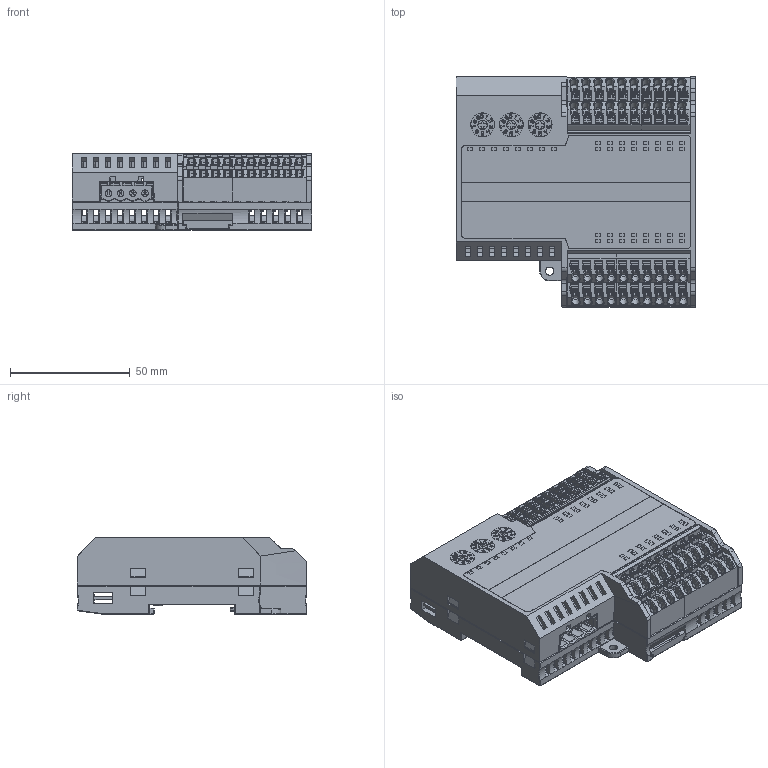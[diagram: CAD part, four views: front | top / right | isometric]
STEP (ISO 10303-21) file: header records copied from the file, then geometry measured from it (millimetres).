
FILE_DESCRIPTION((''),'2;1');
FILE_NAME('SH768_ASM_ASM','2023-09-22T09:42:26',('董'),(''),'CREO PARAMETRIC BY PTC INC, 2020033','CREO PARAMETRIC BY PTC INC, 2020033','');
FILE_SCHEMA(('CONFIG_CONTROL_DESIGN'));
Products named in the file (15): SH768-2_588; SH755A-XLB1_88; _X2_5B9E4F53_X0_1_13; _X2_5B9E4F53_X0_2_13; SH768-XLB1_ASM_24_ASM; SH755A-XLB2_62; _X2_65CB8F6C62E878015F005173_X0; SH768-XLB2_ASM_20_ASM; SH768-3_56; SH768-4_147; SH768_ASM_85_ASM; 2EDGRC-5_08-04P-14-100AH; COVER_CC_3; PVC; SH768_ASM_ASM
Assembly tree (23 placements, depth 4):
  SH768_ASM_ASM
    SH768_ASM_85_ASM
      SH768-2_588
      SH768-XLB1_ASM_24_ASM
        SH755A-XLB1_88
        _X2_5B9E4F53_X0_1_13  x2
        _X2_5B9E4F53_X0_2_13  x2
      SH768-XLB2_ASM_20_ASM
        SH755A-XLB2_62
        _X2_65CB8F6C62E878015F005173_X0  x4
      SH768-3_56  x5
      SH768-4_147
    2EDGRC-5_08-04P-14-100AH
    COVER_CC_3
    PVC
Bounding box: 100 x 96 x 32 mm (x, y, z)
Volume: 102861.8 mm3; surface area: 116579.8 mm2
Topology: 20 solids, 82 shells, 10017 faces, 27377 edges, 17927 vertices
Faces by surface type: plane 8218, cylinder 1388, cone 288, bspline 49, sphere 47, torus 22, extrusion 5
Entity records: 191263 total; most frequent: CARTESIAN_POINT 39822, ORIENTED_EDGE 32658, DIRECTION 28868, EDGE_CURVE 16329, VECTOR 13492, LINE 13487, VERTEX_POINT 10677, AXIS2_PLACEMENT_3D 7688
